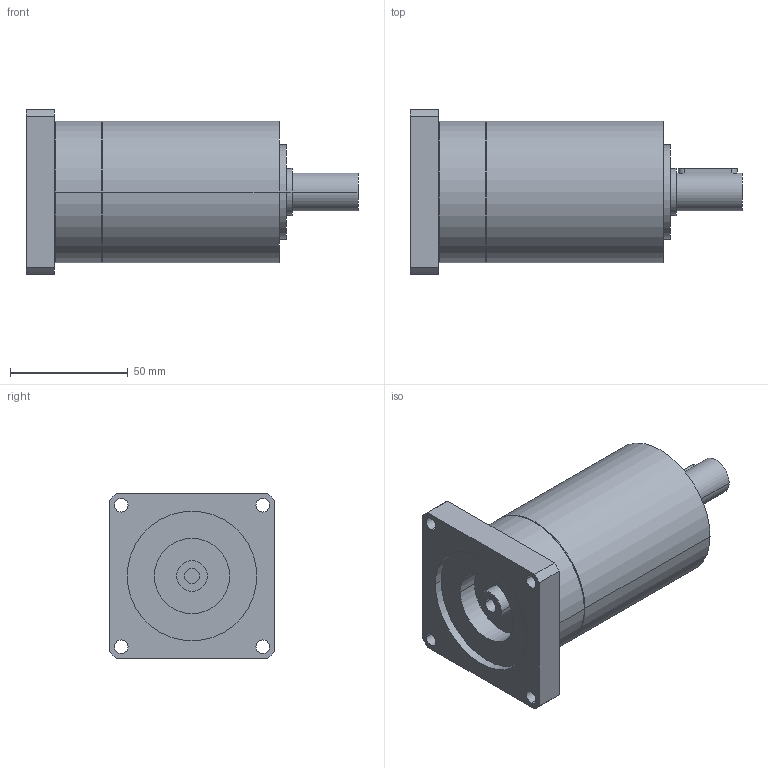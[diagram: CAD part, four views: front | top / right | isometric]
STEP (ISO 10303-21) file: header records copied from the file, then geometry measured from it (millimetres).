
FILE_DESCRIPTION(('CoCreate Modeling STEP Export'),'2;1');
FILE_NAME('GPR75_ig-9-12-16-20-24-30-36_16_B14_6.35_P25.stp','2014-08-25T16:04:16',(''),(''),'CoCreate Modeling STEP processor for AP214 (Solid Model)','CoCreate Modeling 16.00C 25-Feb-2009 (C) Parametric Technology GmbH','');
FILE_SCHEMA(('AUTOMOTIVE_DESIGN { 1 0 10303 214 1 1 1 1 }'));
Length unit declared in the file: millimetre
Products named in the file (2): GPR75_ig-9-12-16-20-24-30-36_16_B14_6.35_P25
Assembly tree (1 placements, depth 2):
  GPR75_ig-9-12-16-20-24-30-36_16_B14_6.35_P25
    GPR75_ig-9-12-16-20-24-30-36_16_B14_6.35_P25
Bounding box: 141 x 70 x 70 mm (x, y, z)
Volume: 321624.8 mm3; surface area: 40688.7 mm2
Topology: 1 solids, 1 shells, 73 faces, 196 edges, 138 vertices
Faces by surface type: cylinder 44, plane 23, cone 6
Entity records: 2014 total; most frequent: ORIENTED_EDGE 388, CARTESIAN_POINT 372, DIRECTION 272, EDGE_CURVE 194, VERTEX_POINT 138, AXIS2_PLACEMENT_3D 102, EDGE_LOOP 96, FACE_OUTER_BOUND 73
